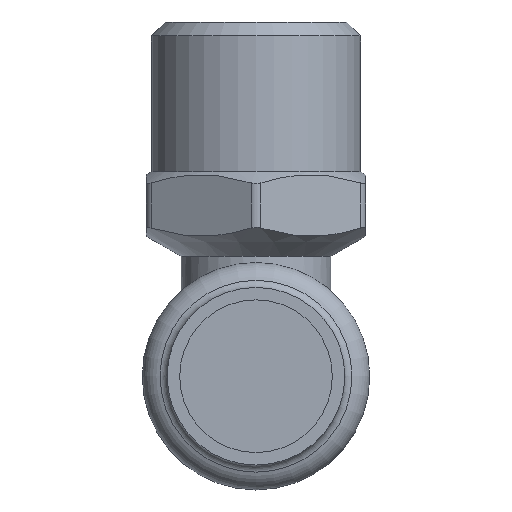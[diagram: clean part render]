
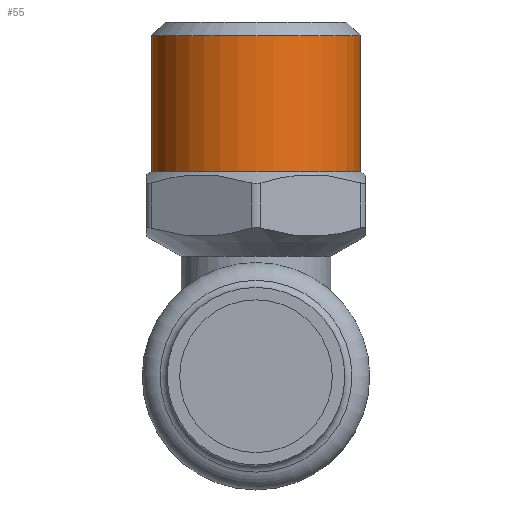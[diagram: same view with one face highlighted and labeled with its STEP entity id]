
A CAD part, front view. The second image highlights one B-rep face of the part: STEP entity #55.
In plain terms, the highlighted cylindrical face has radius 10.477 mm (diameter 20.955 mm), a full revolution.
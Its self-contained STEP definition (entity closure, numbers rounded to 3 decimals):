
#55=ADVANCED_FACE('',(#106,#108),#110,.T.);
#106=FACE_OUTER_BOUND('',#107,.T.);
#107=EDGE_LOOP('',(#398));
#108=FACE_OUTER_BOUND('',#109,.T.);
#109=EDGE_LOOP('',(#399));
#110=CYLINDRICAL_SURFACE('',#111,10.478);
#111=AXIS2_PLACEMENT_3D('',#112,#113,#114);
#112=CARTESIAN_POINT('',(0.,0.,20.5));
#113=DIRECTION('',(0.,0.,1.));
#114=DIRECTION('',(-1.,0.,0.));
#398=ORIENTED_EDGE('',*,*,#524,.F.);
#399=ORIENTED_EDGE('',*,*,#525,.T.);
#524=EDGE_CURVE('',#589,#589,#590,.T.);
#525=EDGE_CURVE('',#591,#591,#592,.T.);
#589=VERTEX_POINT('',#708);
#590=CIRCLE('',#709,10.478);
#591=VERTEX_POINT('',#713);
#592=CIRCLE('',#714,10.478);
#708=CARTESIAN_POINT('',(-10.478,0.,34.1));
#709=AXIS2_PLACEMENT_3D('',#710,#711,#712);
#710=CARTESIAN_POINT('',(0.,0.,34.1));
#711=DIRECTION('',(0.,0.,1.));
#712=DIRECTION('',(-1.,0.,0.));
#713=CARTESIAN_POINT('',(-10.478,0.,20.5));
#714=AXIS2_PLACEMENT_3D('',#715,#716,#717);
#715=CARTESIAN_POINT('',(0.,0.,20.5));
#716=DIRECTION('',(0.,0.,1.));
#717=DIRECTION('',(-1.,0.,0.));
